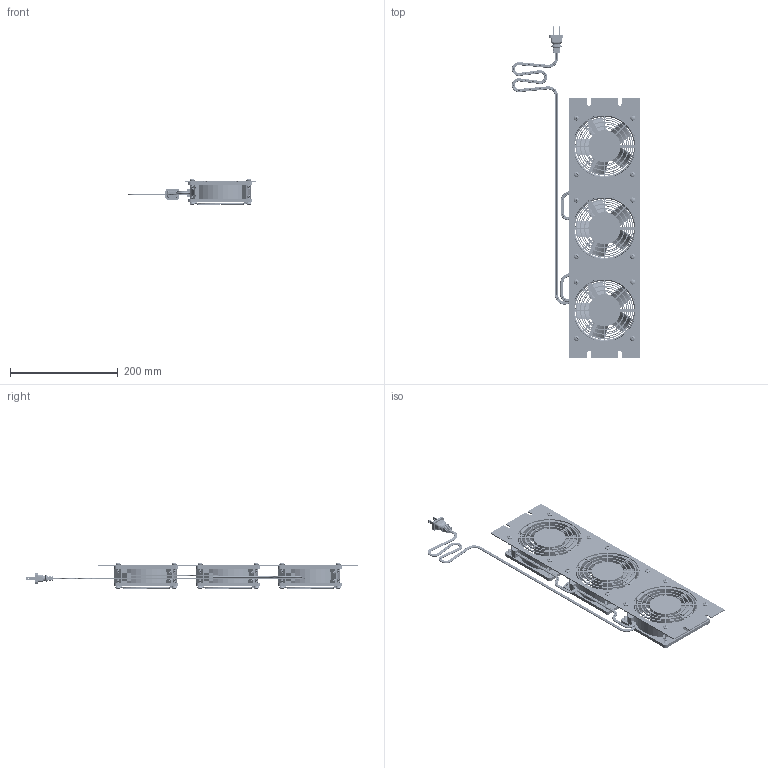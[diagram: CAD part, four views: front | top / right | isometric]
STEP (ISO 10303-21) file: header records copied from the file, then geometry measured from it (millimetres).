
FILE_DESCRIPTION((''),'2;1');
FILE_NAME('E:\Manufacturing\drawings\Updated 2009\Fan Panels\STEP''s\FP3F115.stp','2011-03-10T07:47:33',('tfoster'),(''),'Autodesk Inventor 2011','Autodesk Inventor 2011','');
FILE_SCHEMA(('AUTOMOTIVE_DESIGN { 1 0 10303 214 1 1 1 1 }'));
Length unit declared in the file: millimetre
Products named in the file (9): 3 Fan Panel Assembly; Plate 3 fan; cord 1; cord 2; 4 inch Fan Assembly; 4 inch fan; 4 inch fan insert; 10-32 screw; 4 inch back gate
Assembly tree (36 placements, depth 3):
  3 Fan Panel Assembly
    Plate 3 fan
    cord 1  x2
    cord 2
    4 inch Fan Assembly  x3
      4 inch fan
      4 inch fan insert
    10-32 screw  x24
    4 inch back gate  x3
Bounding box: 238.39 x 617.18 x 48.51 mm (x, y, z)
Volume: 649876.3 mm3; surface area: 421438.3 mm2
Topology: 64 solids, 64 shells, 2413 faces, 11105 edges, 8880 vertices
Faces by surface type: plane 1157, cylinder 636, cone 297, torus 213, bspline 82, sphere 28
Full cylindrical faces by diameter (mm): 1.8 x48, 3.2 x2, 3.3 x12, 4 x36, 4.2 x24, 4.775 x12, 9.474 x24, 19 x3, 30 x3, 59 x3, 110 x3
Entity records: 36206 total; most frequent: CARTESIAN_POINT 8798, DIRECTION 5631, ORIENTED_EDGE 5614, EDGE_CURVE 2807, AXIS2_PLACEMENT_3D 2076, VERTEX_POINT 1949, VECTOR 1479, LINE 1479
